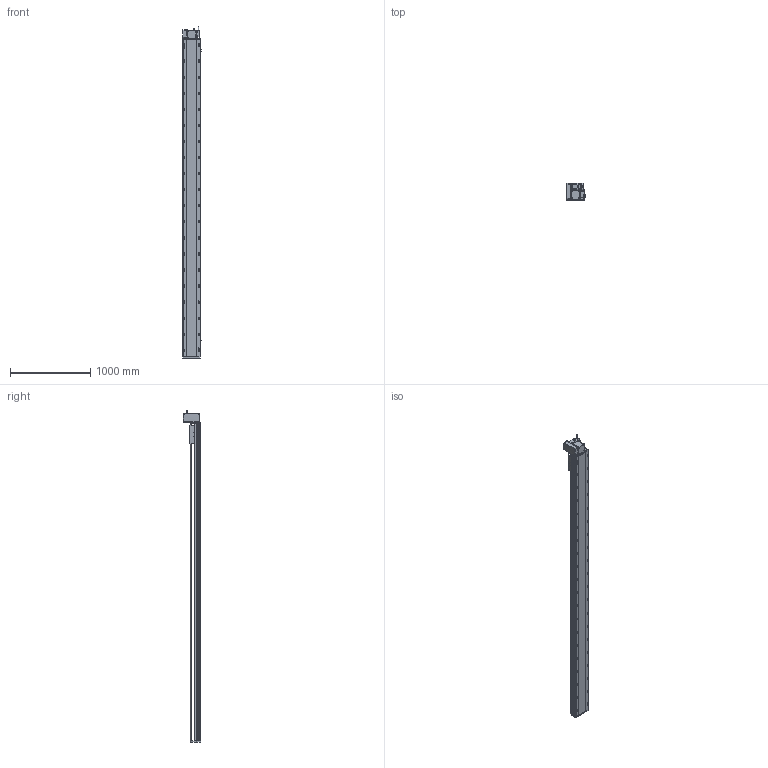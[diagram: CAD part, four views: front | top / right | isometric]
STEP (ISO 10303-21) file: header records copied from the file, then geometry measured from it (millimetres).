
FILE_DESCRIPTION (( 'STEP AP214' ), '1' );
FILE_NAME ('RTB22S-XX-3600-LW-M75-C4.STEP', '2025-12-12T07:08:59', ( '' ), ( '' ), 'SwSTEP 2.0', 'SolidWorks 2018', '' );
FILE_SCHEMA (( 'AUTOMOTIVE_DESIGN' ));
Length unit declared in the file: millimetre
Products named in the file (14): RTB22S-L-004賑釱^RTB22S-XX-XX-LW-M75-C4; RTB22S-GY-005P^RTB22S-LW-々湍釱蚾饜_RTB22S-XX-XX-LW-M75-C4; RTB22S-LW-々湍釱蚾饜^RTB22S-XX-XX-LW-M75-C4; RTB22S-XX-3600-LW-M75-C4; 750W萇儂^RTB22S-XX-XX-LW-M75-C4; RTB22S-GY-007奻裔^RTB22S-XX-XX-LW-M75-C4; RTB22S-GY-008-M75--萇儂啣^RTB22S-LW-々湍釱蚾饜_RTB22S-XX-XX-LW-M75-C4; RTB22S-GY-001耜裔^RTB22S-XX-XX-LW-M75-C4; RTB22S-GY-018P^RTB22S-LW-々湍釱蚾饜_RTB22S-XX-XX-LW-M75-C4; RTB22S-GY-014--々湍釱^RTB22S-LW-々湍釱蚾饜_RTB22S-XX-XX-LW-M75-C4; RTB22S-GY-017P^RTB22S-LW-々湍釱蚾饜_RTB22S-XX-XX-LW-M75-C4; RTH22-GY-013外置感应片^RTB22S-XX-XX-LW-M75-C4; OMRON EE-SX672 传感器^RTB22S-XX-XX-LW-M75-C4; RTB22S-L-011菁釱^RTB22S-XX-XX-LW-M75-C4
Assembly tree (16 placements, depth 3):
  RTB22S-XX-3600-LW-M75-C4
    RTB22S-L-011菁釱^RTB22S-XX-XX-LW-M75-C4
    RTB22S-GY-001耜裔^RTB22S-XX-XX-LW-M75-C4
    750W萇儂^RTB22S-XX-XX-LW-M75-C4
    RTB22S-GY-007奻裔^RTB22S-XX-XX-LW-M75-C4
    RTB22S-L-004賑釱^RTB22S-XX-XX-LW-M75-C4
    RTH22-GY-013外置感应片^RTB22S-XX-XX-LW-M75-C4
    OMRON EE-SX672 传感器^RTB22S-XX-XX-LW-M75-C4  x3
    RTB22S-LW-々湍釱蚾饜^RTB22S-XX-XX-LW-M75-C4
      RTB22S-GY-014--々湍釱^RTB22S-LW-々湍釱蚾饜_RTB22S-XX-XX-LW-M75-C4
      RTB22S-GY-017P^RTB22S-LW-々湍釱蚾饜_RTB22S-XX-XX-LW-M75-C4  x2
      RTB22S-GY-005P^RTB22S-LW-々湍釱蚾饜_RTB22S-XX-XX-LW-M75-C4
      RTB22S-GY-008-M75--萇儂啣^RTB22S-LW-々湍釱蚾饜_RTB22S-XX-XX-LW-M75-C4
      RTB22S-GY-018P^RTB22S-LW-々湍釱蚾饜_RTB22S-XX-XX-LW-M75-C4
Bounding box: 238.5 x 215.5 x 4132.2 mm (x, y, z)
Volume: 51582651.4 mm3; surface area: 5244242.7 mm2
Topology: 15 solids, 15 shells, 2199 faces, 5986 edges, 3812 vertices
Faces by surface type: plane 939, cylinder 766, bspline 296, cone 186, sphere 8, torus 4
Entity records: 60664 total; most frequent: CARTESIAN_POINT 16948, ORIENTED_EDGE 8664, DIRECTION 8546, EDGE_CURVE 4332, AXIS2_PLACEMENT_3D 3094, VERTEX_POINT 2816, VECTOR 2358, LINE 2358
